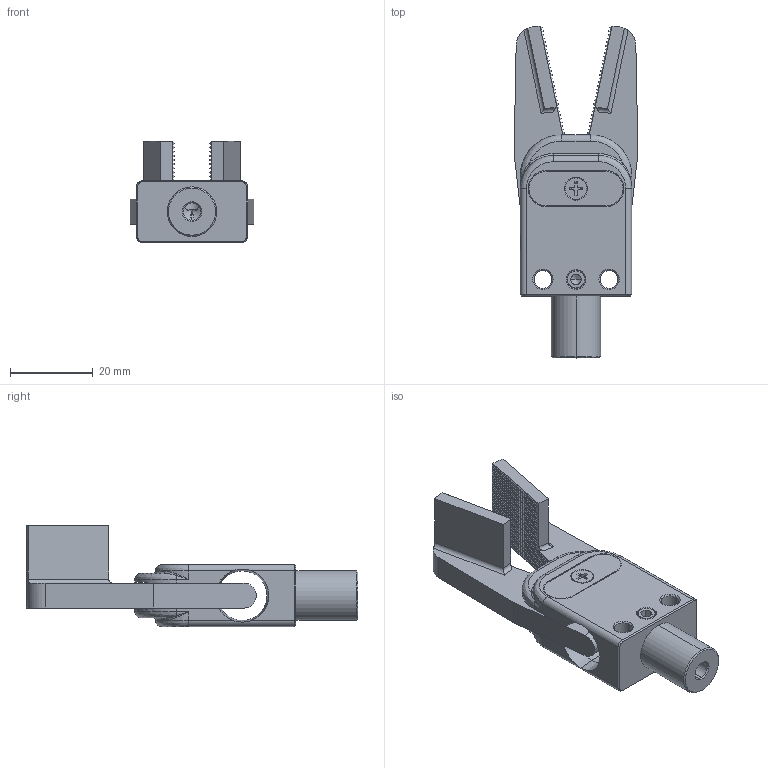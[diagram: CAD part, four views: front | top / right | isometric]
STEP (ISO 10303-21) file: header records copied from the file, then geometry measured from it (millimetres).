
FILE_DESCRIPTION (( 'STEP AP203' ), '1' );
FILE_NAME ('GR12L-12.STEP', '2024-08-05T05:05:51', ( '微软用户' ), ( '微软中国' ), 'SwSTEP 2.0', 'SolidWorks 2018', '' );
FILE_SCHEMA (( 'CONFIG_CONTROL_DESIGN' ));
Products named in the file (1): GR12L-12
Bounding box: 29.99 x 80.35 x 24.5 mm (x, y, z)
Volume: 17313 mm3; surface area: 9801.5 mm2
Topology: 1 solids, 12 shells, 3282 faces, 9659 edges, 6398 vertices
Faces by surface type: plane 3104, cylinder 82, cone 76, bspline 20
Entity records: 109343 total; most frequent: CARTESIAN_POINT 22084, ORIENTED_EDGE 19302, DIRECTION 16235, EDGE_CURVE 9651, LINE 9311, VECTOR 9311, VERTEX_POINT 6398, AXIS2_PLACEMENT_3D 3462
